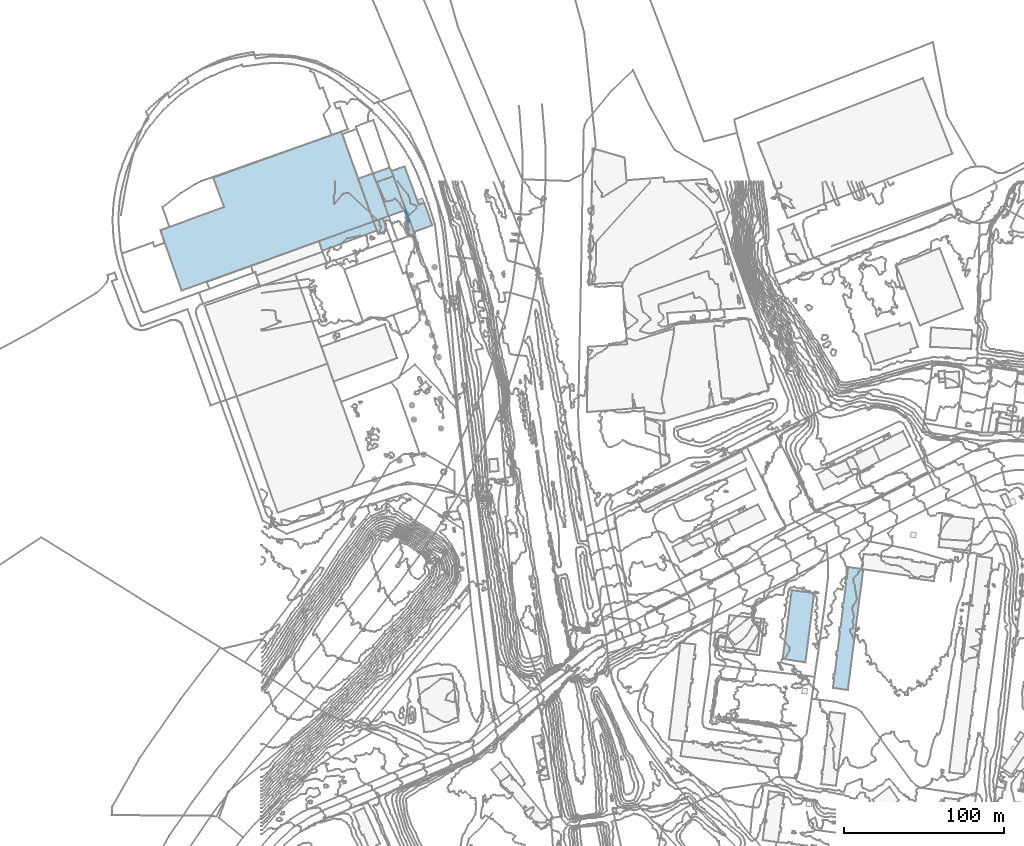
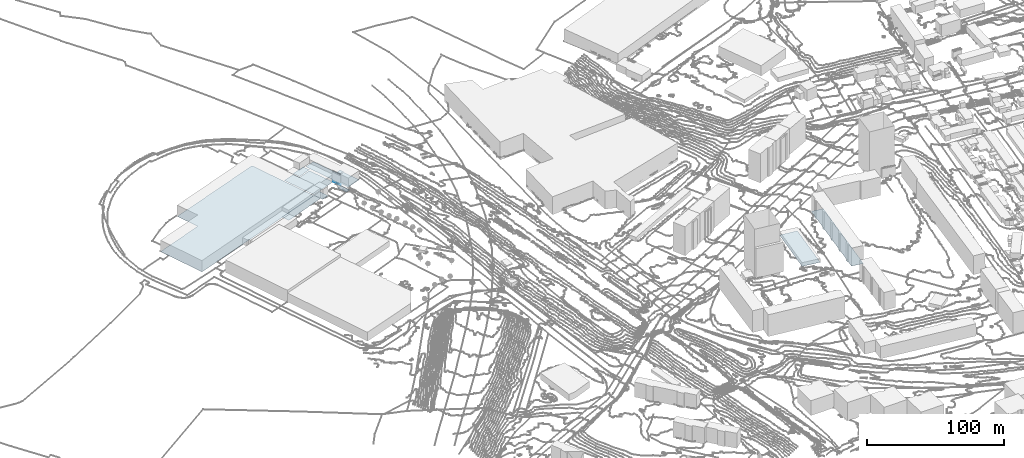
# Not in any storey, part 18 of 419: 11 footings.
"""IFC2X3 model written with IfcOpenShell, lengths in metres."""

import ifcopenshell
import ifcopenshell.guid

model = None  # the IFC model being written
_history = None  # IfcOwnerHistory: only IFC2X3 demands one
_inside = {}  # id of a spatial element -> (the spatial element, [elements in it])
_under = {}  # id of a project, library or spatial element -> (it, [spatial elements below it])
_declared = {}  # id of a project -> (the project, [libraries it declares])
_typed = {}  # id of a type object -> (the type object, [elements of that type])
_made_of = {}  # id of a material, layer set ... -> (it, [elements and type objects made of it])


def new_model(schema):
    """Start an empty IFC model of exactly this schema.

    Asked for "IFC4X3", IfcOpenShell would pick the latest addendum, in which some entities
    have other attributes; the version numbers below select the first issue.
    IFC2X3 requires an IfcOwnerHistory on every rooted entity: one is made here for all.
    """
    global model, _history
    if schema == "IFC4X3":
        model = ifcopenshell.file(schema_version=(4, 3, 0, 0))
    else:
        model = ifcopenshell.file(schema=schema)
    _inside.clear()
    _under.clear()
    _declared.clear()
    _typed.clear()
    _made_of.clear()
    _history = None
    if model.schema == "IFC2X3":
        org = make("IfcOrganization", Name="unknown")
        user = make(
            "IfcPersonAndOrganization",
            ThePerson=make("IfcPerson", FamilyName="unknown"),
            TheOrganization=org,
        )
        app = make(
            "IfcApplication",
            ApplicationDeveloper=org,
            Version="unknown",
            ApplicationFullName="unknown",
            ApplicationIdentifier="unknown",
        )
        _history = make(
            "IfcOwnerHistory",
            OwningUser=user,
            OwningApplication=app,
            ChangeAction="ADDED",
            CreationDate=0,
        )
    return model


def make(cls, **values):
    """One entity of the class cls with the attributes given. An attribute that is None is left unset."""
    return model.create_entity(
        cls, **{name: value for name, value in values.items() if value is not None}
    )


def rooted(cls, **values):
    """An entity with a GlobalId (a new one), such as an element, a storey or a relation."""
    return make(cls, GlobalId=ifcopenshell.guid.new(), OwnerHistory=_history, **values)


def si_unit(unit_type, name, prefix=None):
    """IfcSIUnit, for example si_unit("LENGTHUNIT", "METRE", prefix="MILLI")."""
    return make("IfcSIUnit", UnitType=unit_type, Prefix=prefix, Name=name)


def assignment(units):
    """IfcUnitAssignment: the units of a project."""
    return None if units is None else make("IfcUnitAssignment", Units=units)


def point(xyz):
    """IfcCartesianPoint."""
    return None if xyz is None else make("IfcCartesianPoint", Coordinates=xyz)


def direction(xyz):
    """IfcDirection."""
    return None if xyz is None else make("IfcDirection", DirectionRatios=xyz)


def frame(location, z_axis=None, x_axis=None):
    """IfcAxis2Placement3D, a coordinate frame: its origin and axes. An axis left out is left unset."""
    return make(
        "IfcAxis2Placement3D",
        Location=point(location),
        Axis=direction(z_axis),
        RefDirection=direction(x_axis),
    )


def origin_with_axes():
    """The frame at (0, 0, 0) with the z axis (0, 0, 1) and the x axis (1, 0, 0) written out."""
    return frame((0.0, 0.0, 0.0), z_axis=(0.0, 0.0, 1.0), x_axis=(1.0, 0.0, 0.0))


def place(relative_to, where):
    """IfcLocalPlacement: puts the frame where relative to a parent placement (None: the world)."""
    return make(
        "IfcLocalPlacement", PlacementRelTo=relative_to, RelativePlacement=where
    )


def context(
    kind, dimensions, precision=None, world=None, true_north=None, identifier=None
):
    """IfcGeometricRepresentationContext, for example the 3D "Model" context."""
    return make(
        "IfcGeometricRepresentationContext",
        ContextIdentifier=identifier,
        ContextType=kind,
        CoordinateSpaceDimension=dimensions,
        Precision=precision,
        WorldCoordinateSystem=world,
        TrueNorth=true_north,
    )


def subcontext(parent, identifier, kind, view, scale=None):
    """IfcGeometricRepresentationSubContext, for example "Body" below "Model"."""
    return make(
        "IfcGeometricRepresentationSubContext",
        ContextIdentifier=identifier,
        ContextType=kind,
        ParentContext=parent,
        TargetScale=scale,
        TargetView=view,
    )


def project(units=None, contexts=None):
    """IfcProject with its units and contexts."""
    return rooted(
        "IfcProject",
        Name="project",
        RepresentationContexts=contexts,
        UnitsInContext=assignment(units),
    )


def faces_of(points, faces, orient=None, outer=None):
    """IfcFace entities. A face is a list of loops; a loop is a list of indices into points, from 0.

    orient and outer hold one flag for each loop. By default every Orientation is true, the
    first loop of a face is its IfcFaceOuterBound and the others are IfcFaceBound.
    """
    made = []
    for i, loops in enumerate(faces):
        bounds = []
        for j, loop in enumerate(loops):
            is_outer = j == 0 if outer is None else outer[i][j]
            bounds.append(
                make(
                    "IfcFaceOuterBound" if is_outer else "IfcFaceBound",
                    Bound=make("IfcPolyLoop", Polygon=[points[k] for k in loop]),
                    Orientation=True if orient is None else orient[i][j],
                )
            )
        made.append(make("IfcFace", Bounds=bounds))
    return made


def faceted_brep(points, faces, orient=None, outer=None, voids=None):
    """IfcFacetedBrep: a solid bounded by flat faces; with voids (closed shells), ...WithVoids."""
    shared = [point(p) for p in points]
    hull = make("IfcClosedShell", CfsFaces=faces_of(shared, faces, orient, outer))
    if voids is None:
        return make("IfcFacetedBrep", Outer=hull)
    return make(
        "IfcFacetedBrepWithVoids",
        Outer=hull,
        Voids=[
            make(cls, CfsFaces=faces_of(shared, fs, o, b)) for cls, fs, o, b in voids
        ],
    )


def shape(context_of_items, identifier, shape_type, items):
    """IfcShapeRepresentation: the items that make up one representation, for example the "Body"."""
    return make(
        "IfcShapeRepresentation",
        ContextOfItems=context_of_items,
        RepresentationIdentifier=identifier,
        RepresentationType=shape_type,
        Items=items,
    )


def made_of(thing, what):
    """Note that an element or type object is made of a material, layer set ...; save() writes the relation."""
    if what is not None:
        _made_of.setdefault(what.id(), (what, []))[1].append(thing)
    return thing


def element(
    cls,
    number,
    at=None,
    inside=None,
    cuts=None,
    type_object=None,
    material=None,
    context=None,
    identifier="Body",
    shape_type=None,
    held_by="IfcProductDefinitionShape",
    body=None,
    shapes=None,
    **own,
):
    """One element of the class cls, such as IfcWall. Its Tag is "e" and its number.

    at: its placement. inside: the storey or other place that contains it. cuts: it is an
    opening in that element (IfcRelVoidsElement). A single representation is given by context,
    identifier, shape_type and body (its items); several are given by shapes. held_by: the class
    of the entity that holds the representations. save() writes the other relations.
    """
    e = rooted(cls, Tag="e%d" % number, ObjectPlacement=at, **own)
    if body is not None:
        shapes = [shape(context, identifier, shape_type, body)]
    if shapes is not None:
        e.Representation = make(held_by, Representations=shapes)
    if inside is not None:
        _inside.setdefault(inside.id(), (inside, []))[1].append(e)
    if cuts is not None:
        rooted(
            "IfcRelVoidsElement", RelatingBuildingElement=cuts, RelatedOpeningElement=e
        )
    if type_object is not None:
        _typed.setdefault(type_object.id(), (type_object, []))[1].append(e)
    return made_of(e, material)


def aggregate(whole, parts):
    """IfcRelAggregates: a whole, such as a stair, and the parts it consists of."""
    return rooted("IfcRelAggregates", RelatingObject=whole, RelatedObjects=parts)


def save(model, path):
    """Write the relations noted so far, then the file.

    IfcRelAggregates (storeys below a building ...), IfcRelContainedInSpatialStructure (elements
    in a storey), IfcRelDefinesByType, IfcRelAssociatesMaterial and IfcRelDeclares: one each for
    every whole, place, type object, material and project.
    """
    for whole, parts in _under.values():
        aggregate(whole, parts)
    for where, things in _inside.values():
        rooted(
            "IfcRelContainedInSpatialStructure",
            RelatedElements=things,
            RelatingStructure=where,
        )
    for kind, things in _typed.values():
        rooted("IfcRelDefinesByType", RelatedObjects=things, RelatingType=kind)
    for what, things in _made_of.values():
        rooted("IfcRelAssociatesMaterial", RelatedObjects=things, RelatingMaterial=what)
    for by, libraries in _declared.values():
        rooted("IfcRelDeclares", RelatingContext=by, RelatedDefinitions=libraries)
    model.write(path)


model = new_model("IFC2X3")

# Units and contexts
model_context = context("Model", 3, precision=1e-05, world=origin_with_axes())
body_context = subcontext(model_context, "Body", "Model", "MODEL_VIEW")
ifc_project = project(units=[si_unit("AREAUNIT", "SQUARE_METRE"), si_unit("LENGTHUNIT", "METRE")], contexts=[model_context])

# Footings
footing_1_placement = place(None, frame((69.6920204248, 1007.3976909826, 20.453999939), z_axis=(0.0, 0.0, 1.0), x_axis=(1.0, 0.0, 0.0)))
element("IfcFooting", 1, at=footing_1_placement, Name="Sol 0", PredefinedType="STRIP_FOOTING", context=body_context, shape_type="Brep", body=[
    faceted_brep([(2.9, -7.7999999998, 0.0), (0.0, 0.0, 0.0), (5.8, 2.0, 0.0), (8.6, -5.7000000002, 0.0)], [[[0, 1, 2]], [[2, 3, 0]]]),
])
footing_2_placement = place(None, frame((88.9920204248, 1006.1976909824, 20.8479997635), z_axis=(0.0, 0.0, 1.0), x_axis=(1.0, 0.0, 0.0)))
element("IfcFooting", 2, at=footing_2_placement, Name="Sol 0", PredefinedType="STRIP_FOOTING", context=body_context, shape_type="Brep", body=[
    faceted_brep([(0.0, 0.0, 0.0), (3.5, 1.1000000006, 0.0), (6.4, -6.5, 0.0), (2.9, -7.7999999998, 0.0)], [[[0, 1, 2]], [[2, 3, 0]]]),
])
footing_3_placement = place(None, frame((88.8920204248, 1014.3976909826, 21.9880004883), z_axis=(0.0, 0.0, 1.0), x_axis=(1.0, 0.0, 0.0)))
element("IfcFooting", 3, at=footing_3_placement, Name="Sol 0", PredefinedType="STRIP_FOOTING", context=body_context, shape_type="Brep", body=[
    faceted_brep([(0.0, 0.0, 0.0), (0.8999999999, 0.2999999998, 0.0), (3.6, -7.0999999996, 0.0), (2.7, -7.4000000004, 0.0)], [[[0, 1, 2]], [[2, 3, 0]]]),
])
footing_4_placement = place(None, frame((69.3920204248, 1037.3976909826, 21.7739994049), z_axis=(0.0, 0.0, 1.0), x_axis=(1.0, 0.0, 0.0)))
element("IfcFooting", 4, at=footing_4_placement, Name="Sol 0", PredefinedType="STRIP_FOOTING", context=body_context, shape_type="Brep", body=[
    faceted_brep([(2.0, -5.5999999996, 0.0), (0.0, 0.0, 0.0), (10.3999999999, 3.7000000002, 0.0), (12.7, -1.7000000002, 0.0)], [[[0, 1, 2]], [[2, 3, 0]]]),
])
footing_5_placement = place(None, frame((324.7920204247, 734.4976909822, 32.9928015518), z_axis=(0.0, 0.0, 1.0), x_axis=(1.0, 0.0, 0.0)))
element("IfcFooting", 5, at=footing_5_placement, Name="Sol 0", PredefinedType="STRIP_FOOTING", context=body_context, shape_type="Brep", body=[
    faceted_brep([(19.7000000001, 41.0, 0.0), (14.2000000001, -2.0999999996, 0.0), (0.0, 0.0, 0.0), (5.7000000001, 42.9000000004, 0.0)], [[[0, 1, 2]], [[2, 3, 0]]]),
])
footing_6_placement = place(None, frame((96.7920204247, 1020.9976909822, 23.2920000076), z_axis=(0.0, 0.0, 1.0), x_axis=(1.0, 0.0, 0.0)))
element("IfcFooting", 6, at=footing_6_placement, Name="Sol 0", PredefinedType="STRIP_FOOTING", context=body_context, shape_type="Brep", body=[
    faceted_brep([(1.1000000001, -3.0, 0.0), (0.0, 0.0, 0.0), (3.4, 1.2000000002, 0.0), (4.6000000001, -2.0, 0.0)], [[[0, 1, 2]], [[2, 3, 0]]]),
])
footing_7_placement = place(None, frame((35.5920204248, 995.1976909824, 20.2259994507), z_axis=(0.0, 0.0, 1.0), x_axis=(1.0, 0.0, 0.0)))
element("IfcFooting", 7, at=footing_7_placement, Name="Sol 0", PredefinedType="STRIP_FOOTING", context=body_context, shape_type="Brep", body=[
    faceted_brep([(0.0, 0.0, 0.0), (34.1, 12.2000000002, 0.0), (36.2, 6.6000000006, 0.0), (2.1, -6.2000000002, 0.0)], [[[0, 1, 2]], [[2, 3, 0]]]),
])
footing_8_placement = place(None, frame((-63.3079795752, 1001.8976909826, 19.9179998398), z_axis=(0.0, 0.0, 1.0), x_axis=(1.0, 0.0, 0.0)))
element("IfcFooting", 8, at=footing_8_placement, Name="Sol 0", PredefinedType="STRIP_FOOTING", context=body_context, shape_type="Brep", body=[
    faceted_brep([(0.0, 0.0, 0.0), (5.6, 2.0999999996, 0.0), (39.8, 14.5, 0.0), (133.0, 5.5, 0.0), (13.3, -37.5999999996, 0.0), (33.0, 32.7999999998, 0.0), (112.9, 61.5999999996, 0.0)], [[[0, 1, 2]], [[3, 4, 0]], [[5, 6, 3]], [[3, 0, 2]], [[2, 5, 3]]]),
])
footing_9_placement = place(None, frame((356.1920204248, 716.4976909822, 33.1469994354), z_axis=(0.0, 0.0, 1.0), x_axis=(1.0, 0.0, 0.0)))
element("IfcFooting", 9, at=footing_9_placement, Name="Sol 0", PredefinedType="STRIP_FOOTING", context=body_context, shape_type="Brep", body=[
    faceted_brep([(9.5, 75.3000000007, 0.0), (17.9, 74.1000000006, 0.0), (18.9, 73.9000000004, 0.0), (7.6, 65.5, 0.0), (7.9, 68.0, 0.0), (8.6, 68.0, 0.0), (5.7000000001, 50.4000000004, 0.0), (6.0, 53.0, 0.0), (6.7000000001, 52.9000000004, 0.0), (3.8, 35.2000000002, 0.0), (4.1, 37.8000000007, 0.0), (4.8, 37.7000000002, 0.0), (1.9, 20.6000000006, 0.0), (2.3, 23.1000000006, 0.0), (2.9, 23.0, 0.0), (0.1, 5.9000000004, 0.0), (0.4, 8.5, 0.0), (1.1, 8.4000000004, 0.0), (9.3, -1.3999999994, 0.0), (0.0, 0.0, 0.0), (0.7000000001, 5.8000000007, 0.0), (8.2000000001, 65.4000000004, 0.0), (6.3, 50.3000000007, 0.0), (4.4, 35.1000000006, 0.0), (2.6, 20.5, 0.0)], [[[0, 1, 2]], [[3, 4, 5]], [[6, 7, 8]], [[9, 10, 11]], [[12, 13, 14]], [[15, 16, 17]], [[18, 19, 20]], [[0, 2, 18]], [[21, 3, 5]], [[22, 6, 8]], [[23, 9, 11]], [[24, 12, 14]], [[20, 15, 17]], [[5, 0, 18]], [[8, 21, 5]], [[11, 22, 8]], [[14, 23, 11]], [[18, 20, 17]], [[8, 5, 18]], [[24, 14, 11]], [[18, 17, 24]], [[11, 8, 18]], [[18, 24, 11]]]),
])
footing_10_placement = place(None, frame((59.9920204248, 1034.0976909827, 20.8630004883), z_axis=(0.0, 0.0, 1.0), x_axis=(1.0, 0.0, 0.0)))
element("IfcFooting", 10, at=footing_10_placement, Name="Sol 0", PredefinedType="STRIP_FOOTING", context=body_context, shape_type="Brep", body=[
    faceted_brep([(9.7, -26.7000000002, 0.0), (0.0, 0.0, 0.0), (9.4, 3.2999999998, 0.0), (22.1, 1.5999999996, 0.0), (29.7999999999, -19.4000000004, 0.0), (11.4, -2.2999999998, 0.0)], [[[0, 1, 2]], [[3, 4, 0]], [[0, 2, 5]], [[5, 3, 0]]]),
])
footing_11_placement = place(None, frame((80.8920204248, 1038.8976909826, 22.8500003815), z_axis=(0.0, 0.0, 1.0), x_axis=(1.0, 0.0, 0.0)))
element("IfcFooting", 11, at=footing_11_placement, Name="Sol 0", PredefinedType="STRIP_FOOTING", context=body_context, shape_type="Brep", body=[
    faceted_brep([(25.3999999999, -33.7999999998, 0.0), (14.0, -38.0, 0.0), (1.2, -3.2000000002, 0.0), (17.0, -20.9000000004, 0.0), (20.5, -19.9000000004, 0.0), (0.0, 0.0, 0.0), (8.1, 2.9000000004, 0.0)], [[[0, 1, 2]], [[3, 4, 0]], [[5, 6, 3]], [[0, 2, 5]], [[5, 3, 0]]]),
])

save(model, "model.ifc")
